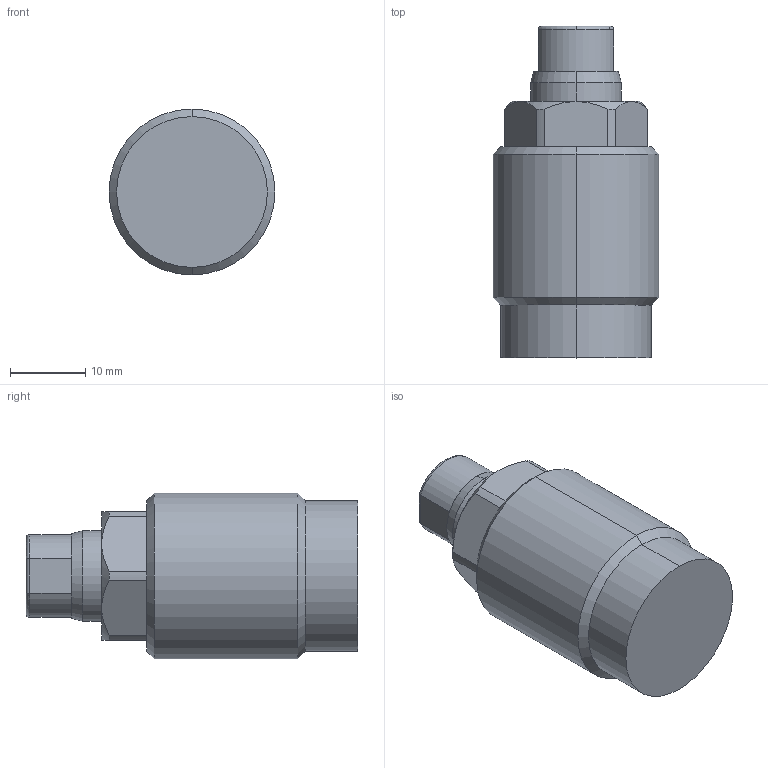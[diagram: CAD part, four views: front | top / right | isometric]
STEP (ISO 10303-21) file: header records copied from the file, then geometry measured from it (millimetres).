
FILE_DESCRIPTION (( 'STEP AP214' ), '1' );
FILE_NAME ('TC-12B.STEP', '2021-10-19T00:42:54', ( '' ), ( '' ), 'SwSTEP 2.0', 'SolidWorks 2016', '' );
FILE_SCHEMA (( 'AUTOMOTIVE_DESIGN' ));
Length unit declared in the file: millimetre
Products named in the file (1): TC-12B
Bounding box: 22 x 44 x 22 mm (x, y, z)
Volume: 12367.1 mm3; surface area: 3409.6 mm2
Topology: 1 solids, 1 shells, 45 faces, 106 edges, 65 vertices
Faces by surface type: cylinder 19, plane 13, cone 10, torus 3
Entity records: 1417 total; most frequent: CARTESIAN_POINT 299, DIRECTION 229, ORIENTED_EDGE 208, EDGE_CURVE 104, AXIS2_PLACEMENT_3D 91, VERTEX_POINT 65, EDGE_LOOP 49, LINE 47
